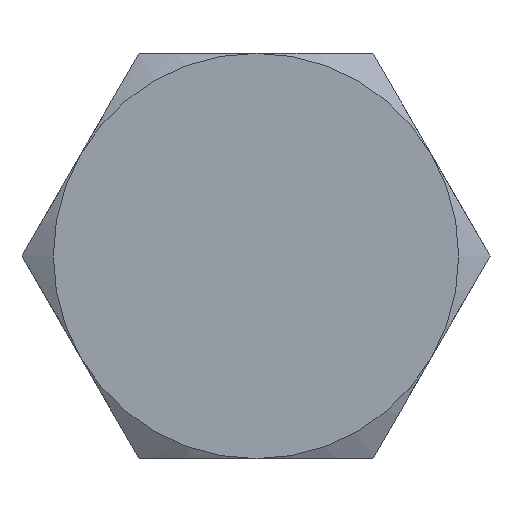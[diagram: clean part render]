
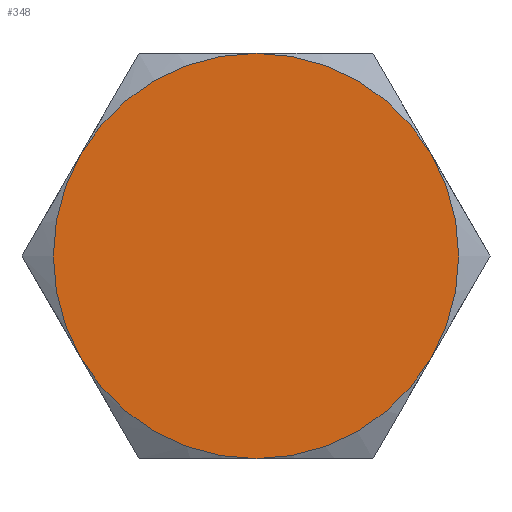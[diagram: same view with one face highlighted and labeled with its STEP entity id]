
A CAD part, left-side view. The second image highlights one B-rep face of the part: STEP entity #348.
In plain terms, the highlighted planar face has unit normal (-1, 0, 0).
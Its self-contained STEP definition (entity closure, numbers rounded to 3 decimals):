
#7 = CARTESIAN_POINT ( 'NONE',  ( 0., 0., 0. ) ) ;
#14 = DIRECTION ( 'NONE',  ( 1., 0., 0. ) ) ;
#15 = EDGE_CURVE ( 'NONE', #407, #681, #402, .T. ) ;
#21 = CIRCLE ( 'NONE', #537, 6.5 ) ;
#31 = EDGE_CURVE ( 'NONE', #455, #507, #207, .T. ) ;
#65 = AXIS2_PLACEMENT_3D ( 'NONE', #489, #720, #210 ) ;
#74 = CARTESIAN_POINT ( 'NONE',  ( 0., 0., 6.5 ) ) ;
#86 = CIRCLE ( 'NONE', #539, 6.5 ) ;
#98 = EDGE_CURVE ( 'NONE', #681, #325, #21, .T. ) ;
#126 = DIRECTION ( 'NONE',  ( 0., 0., -1. ) ) ;
#127 = EDGE_LOOP ( 'NONE', ( #484, #606, #733, #138, #153, #192 ) ) ;
#129 = CIRCLE ( 'NONE', #65, 6.5 ) ;
#134 = CARTESIAN_POINT ( 'NONE',  ( 0., 7.506, 0. ) ) ;
#138 = ORIENTED_EDGE ( 'NONE', *, *, #15, .F. ) ;
#153 = ORIENTED_EDGE ( 'NONE', *, *, #626, .T. ) ;
#154 = CARTESIAN_POINT ( 'NONE',  ( 0., 0., 0. ) ) ;
#163 = AXIS2_PLACEMENT_3D ( 'NONE', #315, #188, #419 ) ;
#173 = CARTESIAN_POINT ( 'NONE',  ( 0., 0., -6.5 ) ) ;
#188 = DIRECTION ( 'NONE',  ( 1., 0., 0. ) ) ;
#192 = ORIENTED_EDGE ( 'NONE', *, *, #31, .F. ) ;
#204 = DIRECTION ( 'NONE',  ( -1., 0., 0. ) ) ;
#205 = DIRECTION ( 'NONE',  ( 1., 0., 0. ) ) ;
#207 = CIRCLE ( 'NONE', #247, 6.5 ) ;
#210 = DIRECTION ( 'NONE',  ( 0., 0., -1. ) ) ;
#230 = CARTESIAN_POINT ( 'NONE',  ( 0., -5.629, -3.25 ) ) ;
#247 = AXIS2_PLACEMENT_3D ( 'NONE', #7, #14, #594 ) ;
#254 = VERTEX_POINT ( 'NONE', #173 ) ;
#260 = DIRECTION ( 'NONE',  ( 0., 0., -1. ) ) ;
#271 = CARTESIAN_POINT ( 'NONE',  ( 0., 5.629, 3.25 ) ) ;
#315 = CARTESIAN_POINT ( 'NONE',  ( 0., 0., 0. ) ) ;
#325 = VERTEX_POINT ( 'NONE', #230 ) ;
#331 = CIRCLE ( 'NONE', #741, 6.5 ) ;
#348 = ADVANCED_FACE ( 'NONE', ( #362 ), #701, .F. ) ;
#350 = CARTESIAN_POINT ( 'NONE',  ( 0., -5.629, 3.25 ) ) ;
#362 = FACE_OUTER_BOUND ( 'NONE', #127, .T. ) ;
#376 = DIRECTION ( 'NONE',  ( 0., 0., -1. ) ) ;
#402 = CIRCLE ( 'NONE', #163, 6.5 ) ;
#407 = VERTEX_POINT ( 'NONE', #74 ) ;
#417 = CARTESIAN_POINT ( 'NONE',  ( 0., 5.629, -3.25 ) ) ;
#419 = DIRECTION ( 'NONE',  ( 0., 0., -1. ) ) ;
#455 = VERTEX_POINT ( 'NONE', #417 ) ;
#475 = EDGE_CURVE ( 'NONE', #254, #455, #129, .T. ) ;
#484 = ORIENTED_EDGE ( 'NONE', *, *, #475, .F. ) ;
#489 = CARTESIAN_POINT ( 'NONE',  ( 0., 0., 0. ) ) ;
#490 = CARTESIAN_POINT ( 'NONE',  ( 0., 0., 0. ) ) ;
#507 = VERTEX_POINT ( 'NONE', #271 ) ;
#508 = EDGE_CURVE ( 'NONE', #325, #254, #331, .T. ) ;
#536 = DIRECTION ( 'NONE',  ( 1., 0., 0. ) ) ;
#537 = AXIS2_PLACEMENT_3D ( 'NONE', #490, #205, #260 ) ;
#539 = AXIS2_PLACEMENT_3D ( 'NONE', #712, #204, #543 ) ;
#543 = DIRECTION ( 'NONE',  ( 0., 0., 1. ) ) ;
#594 = DIRECTION ( 'NONE',  ( 0., 0., -1. ) ) ;
#606 = ORIENTED_EDGE ( 'NONE', *, *, #508, .F. ) ;
#626 = EDGE_CURVE ( 'NONE', #407, #507, #86, .T. ) ;
#632 = DIRECTION ( 'NONE',  ( 1., 0., 0. ) ) ;
#671 = AXIS2_PLACEMENT_3D ( 'NONE', #134, #632, #126 ) ;
#681 = VERTEX_POINT ( 'NONE', #350 ) ;
#701 = PLANE ( 'NONE',  #671 ) ;
#712 = CARTESIAN_POINT ( 'NONE',  ( 0., 0., 0. ) ) ;
#720 = DIRECTION ( 'NONE',  ( 1., 0., 0. ) ) ;
#733 = ORIENTED_EDGE ( 'NONE', *, *, #98, .F. ) ;
#741 = AXIS2_PLACEMENT_3D ( 'NONE', #154, #536, #376 ) ;
